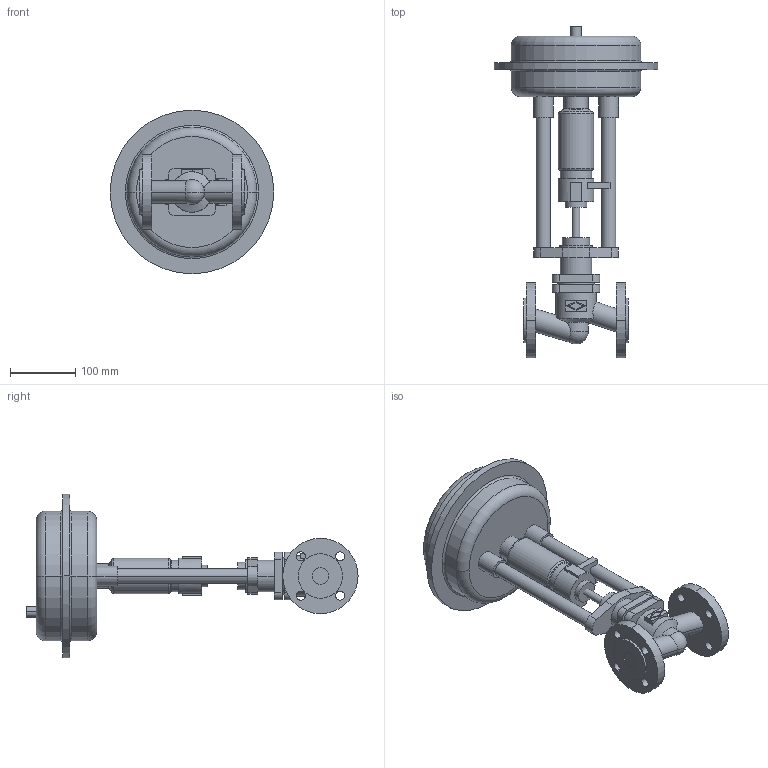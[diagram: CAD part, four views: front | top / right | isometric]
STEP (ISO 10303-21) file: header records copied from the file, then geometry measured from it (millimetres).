
FILE_DESCRIPTION(('OneSpaceDesigner STEP Export'),'2;1');
FILE_NAME('c000000357.stp','2005-02-14T13:58:41',(''),(''),'OneSpace Designer STEP processor (Jan. 2003) for AP203(Solid Model)','OneSpace Designer 12.01D 09-Jul-2004 (C) CoCreate Software GmbH','');
FILE_SCHEMA(('CONFIG_CONTROL_DESIGN'));
Length unit declared in the file: millimetre
Products named in the file (2): 1; 2
Bounding box: 250 x 507.5 x 250 mm (x, y, z)
Volume: 4396786.9 mm3; surface area: 331390.1 mm2
Topology: 2 solids, 2 shells, 181 faces, 435 edges, 283 vertices
Faces by surface type: cylinder 84, plane 73, torus 16, cone 6, sphere 2
Entity records: 5016 total; most frequent: CARTESIAN_POINT 959, ORIENTED_EDGE 866, DIRECTION 727, EDGE_CURVE 433, VERTEX_POINT 283, AXIS2_PLACEMENT_3D 264, EDGE_LOOP 224, VECTOR 199
